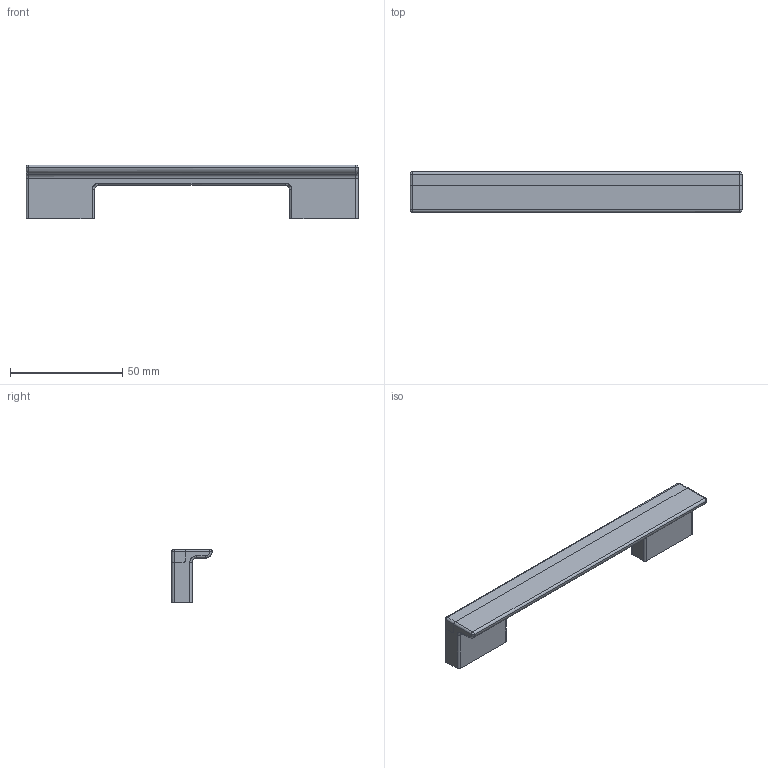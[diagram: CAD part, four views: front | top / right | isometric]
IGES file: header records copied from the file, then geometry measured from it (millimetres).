
Start section: C
Global section: file name: 8095-148.igs; native system: By Siemens PLM Incorporated; preprocessor: XPlus GENERIC/IGES 16.0.42; author: Author; organization: Title; date: 20231128.120243; units: millimetre
Bounding box: 148 x 18 x 24 mm (x, y, z)
Surface area: 15972.7 mm2 (no closed solid volume)
Topology: 0 solids, 0 shells, 310 faces, 1982 edges, 1974 vertices
Faces by surface type: bspline 310
